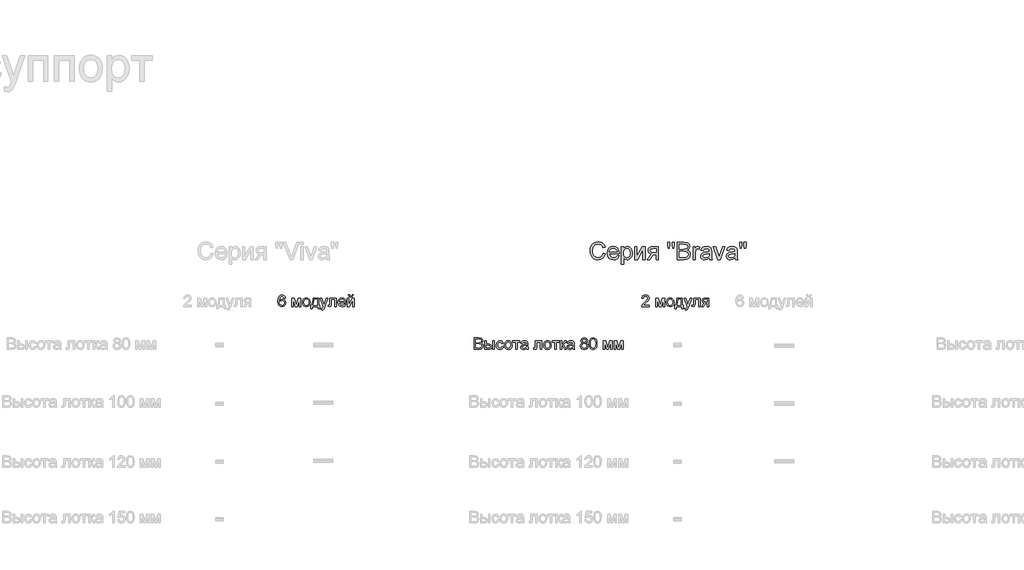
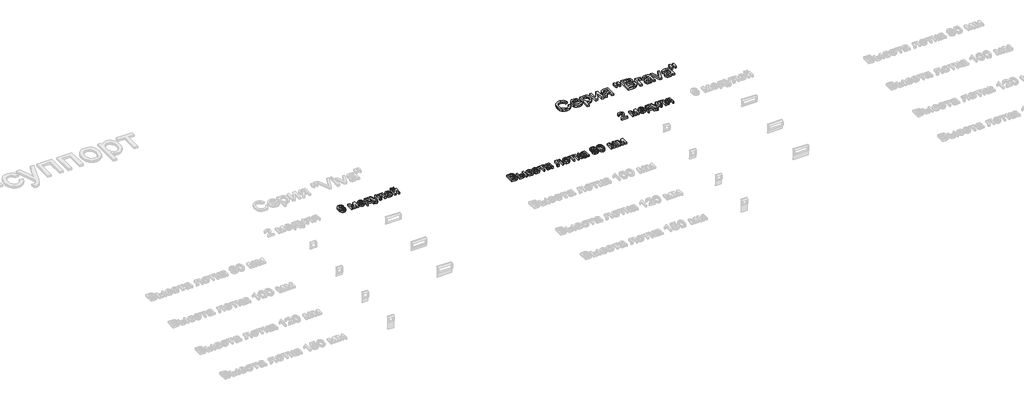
# One storey, part 10 of 28: 4 proxies.
"""IFC4 building model written with IfcOpenShell, lengths in millimetres."""

from ifc_helpers import new_model, si_unit, origin, origin_with_axes, place, context, project, spatial, polyline, outline, extrude, element, save

model = new_model("IFC4")

# Units and contexts
model_context = context("Model", 3, world=origin())
ifc_project = project(units=[si_unit("LENGTHUNIT", "METRE", prefix="MILLI")], contexts=[model_context])

# Site, building, storey
site = spatial("IfcSite", under=ifc_project)
building = spatial("IfcBuilding", under=site)
storey = spatial("IfcBuildingStorey", under=building, Name="Этаж 01", Elevation=0.0)

# Proxies
placement = place(None, origin())
element("IfcBuildingElementProxy", 1, Name="150 мм Arial", ObjectType="150 мм Arial", at=placement, inside=storey, context=model_context, shape_type="SweptSolid", body=[
    extrude(outline(polyline([(7028.9459448, -11135.8364404), (7047.781503, -11140.6924828), (7039.0902908, -11162.6412423), (7025.4510659, -11178.6762988), (7007.5352127, -11188.4849525), (6986.014116, -11191.7545037), (6964.166524, -11189.2804973), (6946.8162894, -11181.858478), (6933.5173553, -11169.7459633), (6923.8236647, -11153.2004706), (6917.9053631, -11133.7487101), (6915.9325959, -11112.9173921), (6918.1628805, -11090.94564), (6924.8537343, -11071.9721261), (6935.6556694, -11056.5992572), (6950.2191978, -11045.4294401), (6967.4912575, -11038.6282217), (6986.4187862, -11036.3611489), (7007.0707617, -11039.2950079), (7024.1450848, -11048.0965846), (7037.1083266, -11062.2232532), (7045.4270582, -11081.1323878), (7026.5915, -11085.6205481), (7020.0615946, -11071.8847541), (7011.1404562, -11062.4623765), (6999.7177203, -11057.0131245), (6985.6830222, -11055.1967071), (6969.5054114, -11057.210861), (6956.2156744, -11063.2533228), (6946.1311092, -11072.689496), (6939.5690141, -11084.8847841), (6934.768154, -11112.8806039), (6936.1890983, -11130.2814223), (6940.4519309, -11145.3277959), (6947.7176003, -11157.4449091), (6958.1470548, -11166.0579463), (6970.6504442, -11171.2036958), (6984.1379178, -11172.9189456), (6999.8602746, -11170.5828949), (7012.9614721, -11163.5747429), (7022.8528993, -11151.9680659), (7028.9459448, -11135.8364404)])), origin_with_axes(), (0.0, 0.0, 1.0), 20.0),
    extrude(outline(polyline([(7148.8018988, -11156.4378322), (7167.269575, -11158.7922769), (7160.6155094, -11172.7074134), (7149.9975153, -11183.1092768), (7135.654716, -11189.593197), (7117.8262348, -11191.7545037), (7095.725724, -11188.0251), (7078.7203788, -11176.8368888), (7067.877057, -11158.9164371), (7064.2626164, -11134.9903119), (7067.9138452, -11110.2594447), (7078.8675316, -11091.7641774), (7095.6429505, -11080.2310769), (7116.7593771, -11076.38671), (7137.2182145, -11080.2218798), (7153.5659707, -11091.7273892), (7164.2851323, -11110.1858683), (7167.8581862, -11134.8799473), (7167.7478216, -11139.9567188), (7083.0981745, -11139.9567188), (7086.3585287, -11154.0557963), (7093.9322993, -11164.4208715), (7104.862993, -11170.794427), (7118.1941168, -11172.9189456), (7136.661793, -11168.9826082), (7148.8018988, -11156.4378322)]), holes=[polyline([(7083.0981745, -11121.1211606), (7149.022628, -11121.1211606), (7146.4750452, -11111.1699527), (7141.4810471, -11104.0514361), (7130.4997696, -11097.4295601), (7116.6858007, -11095.2222682), (7103.9892733, -11096.9835032), (7093.4908409, -11102.2672084), (7086.1929818, -11110.5031666), (7083.0981745, -11121.1211606)])]), origin_with_axes(), (0.0, 0.0, 1.0), 20.0),
    extrude(outline(polyline([(7186.6937443, -11231.7800648), (7186.6937443, -11078.7411548), (7205.5293025, -11078.7411548), (7205.5293025, -11097.208831), (7218.5523251, -11081.5922403), (7236.1370845, -11076.38671), (7248.8749986, -11078.2077259), (7260.012626, -11083.6707735), (7269.0809172, -11092.4447591), (7275.6108226, -11104.1985889), (7280.8715351, -11133.2244783), (7279.3862116, -11149.3331111), (7274.9302409, -11163.7402898), (7267.6461774, -11175.7148487), (7257.6765753, -11184.5256225), (7246.0652998, -11189.9472834), (7233.8562161, -11191.7545037), (7217.4670732, -11186.9168555), (7205.5293025, -11174.6847791), (7205.5293025, -11231.7800648), (7186.6937443, -11231.7800648)]), holes=[polyline([(7205.5293025, -11134.9535237), (7207.566449, -11151.8393072), (7213.6778887, -11163.6483193), (7222.6955961, -11170.601289), (7233.4515459, -11172.9189456), (7244.3822397, -11170.5185155), (7253.6298734, -11163.3172255), (7259.9344511, -11151.0759521), (7262.035977, -11133.5555721), (7259.9850348, -11116.761759), (7253.8322085, -11104.7872001), (7244.8282966, -11097.6135011), (7234.2240981, -11095.2222682), (7223.5785129, -11097.7652525), (7214.2297117, -11105.3942053), (7207.7044048, -11117.8700035), (7205.5293025, -11134.9535237)])]), origin_with_axes(), (0.0, 0.0, 1.0), 20.0),
    extrude(outline(polyline([(7302.061538, -11078.7411548), (7320.8970962, -11078.7411548), (7320.8970962, -11163.1332845), (7367.1766512, -11078.7411548), (7391.5304393, -11078.7411548), (7391.5304393, -11189.4000589), (7372.6948811, -11189.4000589), (7372.6948811, -11105.522964), (7326.7096317, -11189.4000589), (7302.061538, -11189.4000589), (7302.061538, -11078.7411548)])), origin_with_axes(), (0.0, 0.0, 1.0), 20.0),
    extrude(outline(polyline([(7504.5437882, -11078.7411548), (7504.5437882, -11189.4000589), (7485.70823, -11189.4000589), (7485.70823, -11147.0200531), (7475.4443224, -11147.0200531), (7461.4648065, -11149.4112861), (7448.3314193, -11165.4877293), (7433.3218339, -11189.4000589), (7411.5432198, -11189.4000589), (7430.4523544, -11159.1601589), (7438.8032756, -11148.3076401), (7446.4920093, -11143.4883859), (7433.6161395, -11139.5428515), (7424.5662424, -11132.0472559), (7419.2135594, -11122.0776538), (7417.4293317, -11110.7101002), (7419.8665499, -11097.8158362), (7427.1782046, -11087.6071109), (7439.1067783, -11080.9576438), (7455.3947536, -11078.7411548), (7504.5437882, -11078.7411548)]), holes=[polyline([(7485.70823, -11097.5767129), (7460.8761954, -11097.5767129), (7448.0509093, -11098.6665634), (7440.7714443, -11101.9361146), (7436.2648899, -11112.14484), (7437.9249574, -11119.3231374), (7442.9051599, -11124.3033399), (7466.4312135, -11128.1844949), (7485.70823, -11128.1844949), (7485.70823, -11097.5767129)])]), origin_with_axes(), (0.0, 0.0, 1.0), 20.0),
    extrude(outline(polyline([(7591.54788, -11092.8678234), (7586.9493551, -11063.7683576), (7586.9493551, -11038.7155937), (7605.7849133, -11038.7155937), (7605.7849133, -11063.7683576), (7601.6646349, -11092.8678234), (7591.54788, -11092.8678234)])), origin_with_axes(), (0.0, 0.0, 1.0), 20.0),
    extrude(outline(polyline([(7629.1086317, -11092.8678234), (7624.6204714, -11063.7683576), (7624.6204714, -11038.7155937), (7643.4560296, -11038.7155937), (7643.4560296, -11063.7683576), (7639.0414456, -11092.8678234), (7629.1086317, -11092.8678234)])), origin_with_axes(), (0.0, 0.0, 1.0), 20.0),
    extrude(outline(polyline([(7669.354922, -11189.4000589), (7669.354922, -11038.7155937), (7726.8548779, -11038.7155937), (7755.0162446, -11043.1485718), (7764.4800089, -11048.7725678), (7771.6445108, -11056.7785997), (7777.6593814, -11076.0556162), (7772.601004, -11093.6587697), (7757.3155071, -11106.994492), (7767.9886835, -11112.5679042), (7775.8751537, -11121.0475842), (7780.7449916, -11131.8725119), (7782.3682709, -11144.4816673), (7777.9352929, -11164.7335712), (7766.9540153, -11179.1545454), (7750.5648725, -11186.8064909), (7726.4134195, -11189.4000589), (7669.354922, -11189.4000589)]), holes=[polyline([(7688.1904802, -11170.5645008), (7726.8180897, -11170.5645008), (7740.7976055, -11169.8287368), (7752.6250116, -11165.7268526), (7760.4608981, -11157.3575372), (7763.5327128, -11144.6656083), (7759.9274692, -11130.0239049), (7748.2472159, -11121.2867075), (7724.9786797, -11118.7667159), (7688.1904802, -11118.7667159), (7688.1904802, -11170.5645008)]), polyline([(7688.1904802, -11099.9311577), (7722.5874467, -11099.9311577), (7742.6738037, -11098.3124769), (7754.7587272, -11091.3411131), (7758.8238232, -11079.0722486), (7755.0346387, -11066.7849899), (7744.1821198, -11059.5193205), (7719.9754846, -11057.5511519), (7688.1904802, -11057.5511519), (7688.1904802, -11099.9311577)])]), origin_with_axes(), (0.0, 0.0, 1.0), 20.0),
    extrude(outline(polyline([(7805.9127186, -11189.4000589), (7805.9127186, -11078.7411548), (7822.393832, -11078.7411548), (7822.393832, -11095.1119036), (7834.0924795, -11080.0287418), (7845.8647033, -11076.38671), (7864.7738379, -11082.1992455), (7858.4830557, -11099.0850291), (7845.2393039, -11095.2222682), (7834.5891202, -11098.9378763), (7827.8016973, -11109.2385722), (7824.7482768, -11131.2379155), (7824.7482768, -11189.4000589), (7805.9127186, -11189.4000589)])), origin_with_axes(), (0.0, 0.0, 1.0), 20.0),
    extrude(outline(polyline([(7947.1794048, -11175.2733903), (7928.9140637, -11188.0388956), (7908.7357363, -11191.7545037), (7892.9949854, -11189.5196206), (7881.3837099, -11182.8149712), (7874.2238066, -11172.633837), (7871.8371722, -11159.9694993), (7875.4424157, -11145.0702785), (7884.9153771, -11134.2545479), (7898.1039466, -11128.0741303), (7914.401119, -11125.241439), (7947.0690402, -11118.7667159), (7947.1794048, -11114.5728611), (7945.8826207, -11106.1667575), (7941.9922686, -11100.6669217), (7933.2918595, -11096.5834316), (7921.1701477, -11095.2222682), (7902.1138604, -11098.8459058), (7893.0271751, -11111.7033816), (7874.1916169, -11109.3489368), (7882.3402031, -11090.954837), (7898.7477401, -11080.1758946), (7923.5981689, -11076.38671), (7946.4252467, -11079.7344362), (7959.3195106, -11088.1405398), (7965.0952579, -11100.9244391), (7966.0149629, -11117.4055525), (7966.0149629, -11140.8396356), (7966.9714561, -11173.562739), (7970.7238525, -11189.4000589), (7951.8882943, -11189.4000589), (7947.1794048, -11175.2733903)]), holes=[polyline([(7947.1794048, -11137.602274), (7916.792352, -11143.3780213), (7900.5871501, -11146.4314419), (7893.2479043, -11151.3978488), (7890.6727303, -11158.6451241), (7896.2829307, -11168.8354554), (7912.74565, -11172.9189456), (7931.8019374, -11168.4123911), (7944.089196, -11157.50469), (7947.0690402, -11142.936563), (7947.1794048, -11137.602274)])]), origin_with_axes(), (0.0, 0.0, 1.0), 20.0),
    extrude(outline(polyline([(8019.0635466, -11189.4000589), (7980.1416315, -11078.7411548), (8000.0808357, -11078.7411548), (8023.6620716, -11145.0334903), (8030.7621941, -11167.3271392), (8037.7151638, -11146.2842891), (8061.4435525, -11078.7411548), (8081.3827566, -11078.7411548), (8042.9390881, -11189.4000589), (8019.0635466, -11189.4000589)])), origin_with_axes(), (0.0, 0.0, 1.0), 20.0),
    extrude(outline(polyline([(8168.4972131, -11175.2733903), (8150.231872, -11188.0388956), (8130.0535446, -11191.7545037), (8114.3127937, -11189.5196206), (8102.7015182, -11182.8149712), (8095.5416149, -11172.633837), (8093.1549805, -11159.9694993), (8096.760224, -11145.0702785), (8106.2331854, -11134.2545479), (8119.4217549, -11128.0741303), (8135.7189273, -11125.241439), (8168.3868485, -11118.7667159), (8168.4972131, -11114.5728611), (8167.200429, -11106.1667575), (8163.3100769, -11100.6669217), (8154.6096678, -11096.5834316), (8142.487956, -11095.2222682), (8123.4316687, -11098.8459058), (8114.3449834, -11111.7033816), (8095.5094252, -11109.3489368), (8103.6580114, -11090.954837), (8120.0655484, -11080.1758946), (8144.9159772, -11076.38671), (8167.743055, -11079.7344362), (8180.6373189, -11088.1405398), (8186.4130662, -11100.9244391), (8187.3327712, -11117.4055525), (8187.3327712, -11140.8396356), (8188.2892644, -11173.562739), (8192.0416608, -11189.4000589), (8173.2061026, -11189.4000589), (8168.4972131, -11175.2733903)]), holes=[polyline([(8168.4972131, -11137.602274), (8138.1101603, -11143.3780213), (8121.9049584, -11146.4314419), (8114.5657126, -11151.3978488), (8111.9905386, -11158.6451241), (8117.600739, -11168.8354554), (8134.0634583, -11172.9189456), (8153.1197457, -11168.4123911), (8165.4070043, -11157.50469), (8168.3868485, -11142.936563), (8168.4972131, -11137.602274)])]), origin_with_axes(), (0.0, 0.0, 1.0), 20.0),
    extrude(outline(polyline([(8213.1212991, -11092.8678234), (8208.5227742, -11063.7683576), (8208.5227742, -11038.7155937), (8227.3583323, -11038.7155937), (8227.3583323, -11063.7683576), (8223.238054, -11092.8678234), (8213.1212991, -11092.8678234)])), origin_with_axes(), (0.0, 0.0, 1.0), 20.0),
    extrude(outline(polyline([(8250.6820508, -11092.8678234), (8246.1938905, -11063.7683576), (8246.1938905, -11038.7155937), (8265.0294486, -11038.7155937), (8265.0294486, -11063.7683576), (8260.6148647, -11092.8678234), (8250.6820508, -11092.8678234)])), origin_with_axes(), (0.0, 0.0, 1.0), 20.0),
])
element("IfcBuildingElementProxy", 2, Name="100 мм Arial", ObjectType="100 мм Arial", at=placement, inside=storey, context=model_context, shape_type="SweptSolid", body=[
    extrude(outline(polyline([(4281.5720491, -11522.3305611), (4269.0150103, -11523.9001909), (4264.2570698, -11513.4278168), (4251.6755056, -11508.2038924), (4240.3447401, -11511.2450503), (4231.7730896, -11522.6616549), (4228.2046343, -11545.0411429), (4239.2778823, -11535.0224899), (4252.9998808, -11531.7483401), (4264.6004263, -11533.9862889), (4274.3370365, -11540.7001354), (4280.9405183, -11550.9579117), (4283.1416789, -11563.8276501), (4278.9968751, -11581.1548921), (4267.5925332, -11593.4176253), (4251.1359453, -11597.6727937), (4236.8897151, -11594.852365), (4225.5436212, -11586.3910792), (4218.1216019, -11571.4550702), (4215.6475955, -11549.2104722), (4218.3944478, -11524.2006279), (4226.6350044, -11507.1002465), (4237.8860621, -11498.5102019), (4252.4603205, -11495.6468537), (4263.4783863, -11497.4188186), (4272.3014228, -11502.7347135), (4278.4818403, -11511.1776052), (4281.5720491, -11522.3305611)]), holes=[polyline([(4228.2046343, -11563.6314464), (4231.1109021, -11574.5084907), (4238.836424, -11582.4056909), (4250.1549267, -11585.1157549), (4258.4414686, -11583.711672), (4264.9560456, -11579.4994231), (4269.1774915, -11572.8775472), (4270.5846401, -11564.244583), (4269.1958856, -11555.9580411), (4265.029622, -11549.6396678), (4258.4046804, -11545.6389511), (4249.6398919, -11544.3053789), (4234.4463655, -11549.6396678), (4229.7650671, -11555.8047569), (4228.2046343, -11563.6314464)])]), origin_with_axes(), (0.0, 0.0, 1.0), 20.0),
    extrude(outline(polyline([(4336.5090937, -11522.3305611), (4358.1160295, -11522.3305611), (4374.7688212, -11581.387884), (4392.7214625, -11522.3305611), (4413.4209561, -11522.3305611), (4413.4209561, -11596.1031638), (4400.8639174, -11596.1031638), (4400.8639174, -11536.7024843), (4382.8131741, -11596.1031638), (4366.3320607, -11596.1031638), (4349.0661324, -11533.8575302), (4349.0661324, -11596.1031638), (4336.5090937, -11596.1031638), (4336.5090937, -11522.3305611)])), origin_with_axes(), (0.0, 0.0, 1.0), 20.0),
    extrude(outline(polyline([(4429.1172546, -11559.2168624), (4431.83345, -11541.429768), (4439.9820362, -11528.9279115), (4450.0497401, -11522.8026763), (4462.1040068, -11520.7609312), (4475.295642, -11523.2472004), (4485.8323955, -11530.7060078), (4492.73938, -11542.5487424), (4495.0417081, -11558.1867929), (4490.9704807, -11580.5294927), (4479.1124177, -11593.1723706), (4462.1040068, -11597.6727937), (4448.7529561, -11595.1957216), (4438.2284653, -11587.7645053), (4431.3950573, -11575.6734504), (4429.1172546, -11559.2168624)]), holes=[polyline([(4441.6742934, -11559.192337), (4443.1274272, -11570.5568249), (4447.4868289, -11578.6532945), (4454.0473911, -11583.5001398), (4462.1040068, -11585.1157549), (4470.1238343, -11583.4909428), (4476.6721338, -11578.6165063), (4481.0315355, -11570.4127378), (4482.4846694, -11558.7999295), (4481.0223384, -11547.7665353), (4476.6353456, -11539.7804304), (4470.0778491, -11534.9335851), (4462.1040068, -11533.31797), (4454.0473911, -11534.9274537), (4447.4868289, -11539.7559049), (4443.1274272, -11547.8339804), (4441.6742934, -11559.192337)])]), origin_with_axes(), (0.0, 0.0, 1.0), 20.0),
    extrude(outline(polyline([(4520.1557857, -11522.3305611), (4567.244681, -11522.3305611), (4567.244681, -11583.5461251), (4576.6624601, -11583.5461251), (4576.6624601, -11616.5083518), (4564.1054214, -11616.5083518), (4564.1054214, -11596.1031638), (4512.3076364, -11596.1031638), (4512.3076364, -11616.5083518), (4499.7505977, -11616.5083518), (4499.7505977, -11583.5461251), (4507.5987469, -11583.5461251), (4517.2985688, -11559.5970072), (4520.1557857, -11522.3305611)]), holes=[polyline([(4531.1431946, -11534.8875998), (4528.2001386, -11563.4965563), (4521.7254155, -11583.5461251), (4554.6876423, -11583.5461251), (4554.6876423, -11534.8875998), (4531.1431946, -11534.8875998)])]), origin_with_axes(), (0.0, 0.0, 1.0), 20.0),
    extrude(outline(polyline([(4590.7891287, -11624.3565011), (4589.2194989, -11612.2654462), (4595.5961201, -11613.3690921), (4601.5558085, -11611.9834033), (4605.2101029, -11608.1206423), (4608.6436682, -11598.8745415), (4609.6246869, -11595.8333837), (4582.9409795, -11522.3305611), (4596.1847313, -11522.3305611), (4610.3359254, -11563.2880899), (4615.2655441, -11579.6711014), (4620.1951629, -11565.2010762), (4634.7387644, -11522.3305611), (4647.8844144, -11522.3305611), (4622.2062511, -11597.8689974), (4615.5353243, -11614.2520089), (4608.2512608, -11623.1057023), (4598.4655997, -11625.9261309), (4590.7891287, -11624.3565011)])), origin_with_axes(), (0.0, 0.0, 1.0), 20.0),
    extrude(outline(polyline([(4664.5617315, -11522.3305611), (4721.068406, -11522.3305611), (4721.068406, -11596.0295874), (4708.5113672, -11596.0295874), (4708.5113672, -11534.8875998), (4677.1187703, -11534.8875998), (4677.1187703, -11570.081644), (4676.2726417, -11586.3175028), (4671.6250658, -11593.1723706), (4660.6376569, -11596.1031638), (4650.4350629, -11595.4655017), (4650.4350629, -11583.5461251), (4656.0513947, -11583.5461251), (4661.7290401, -11582.7735729), (4663.9976458, -11580.3210262), (4664.5617315, -11569.3704055), (4664.5617315, -11522.3305611)])), origin_with_axes(), (0.0, 0.0, 1.0), 20.0),
    extrude(outline(polyline([(4791.5545962, -11574.128346), (4803.8663803, -11575.6979758), (4799.4303366, -11584.9747335), (4792.3516739, -11591.9093091), (4782.7898077, -11596.2319225), (4770.9041536, -11597.6727937), (4756.1704797, -11595.1865245), (4744.8335829, -11587.7277171), (4737.6047016, -11575.7807493), (4735.1950746, -11559.8299991), (4737.6292271, -11543.3427544), (4744.9316847, -11531.0125762), (4756.1152974, -11523.3238425), (4770.1929151, -11520.7609312), (4783.83214, -11523.3177111), (4794.7306441, -11530.9880507), (4801.8767519, -11543.2937034), (4804.2587878, -11559.7564227), (4804.1852114, -11563.1409371), (4747.7521133, -11563.1409371), (4749.9256828, -11572.540322), (4754.9748632, -11579.4503722), (4762.2619924, -11583.6994092), (4771.1494082, -11585.1157549), (4783.4611923, -11582.49153), (4791.5545962, -11574.128346)]), holes=[polyline([(4747.7521133, -11550.5838983), (4791.701749, -11550.5838983), (4786.6740284, -11539.2040819), (4779.3531767, -11534.789498), (4770.1438641, -11533.31797), (4754.6805576, -11538.0145968), (4749.8153182, -11543.5052356), (4747.7521133, -11550.5838983)])]), origin_with_axes(), (0.0, 0.0, 1.0), 20.0),
    extrude(outline(polyline([(4816.8158266, -11522.3305611), (4829.3728653, -11522.3305611), (4829.3728653, -11578.5919809), (4860.225902, -11522.3305611), (4876.4617607, -11522.3305611), (4876.4617607, -11596.1031638), (4863.904722, -11596.1031638), (4863.904722, -11540.1851006), (4833.247889, -11596.1031638), (4816.8158266, -11596.1031638), (4816.8158266, -11522.3305611)])), origin_with_axes(), (0.0, 0.0, 1.0), 20.0),
    extrude(outline(polyline([(4857.6262026, -11495.6468537), (4867.0439816, -11495.6468537), (4860.9494033, -11509.6141068), (4847.4236086, -11514.4824118), (4832.7819052, -11509.650895), (4826.2336056, -11495.6468537), (4835.6513847, -11495.6468537), (4839.1830519, -11502.7224507), (4846.2954371, -11505.0646328), (4854.0945354, -11502.7960271), (4857.6262026, -11495.6468537)])), origin_with_axes(), (0.0, 0.0, 1.0), 20.0),
])
element("IfcBuildingElementProxy", 3, Name="100 мм Arial", ObjectType="100 мм Arial", at=placement, inside=storey, context=model_context, shape_type="SweptSolid", body=[
    extrude(outline(polyline([(5915.5247749, -11966.5703412), (5915.5247749, -11866.114031), (5953.8580788, -11866.114031), (5972.6323233, -11869.0693497), (5983.7178341, -11878.156035), (5987.7277478, -11891.0073794), (5984.3554962, -11902.742815), (5974.165165, -11911.6332966), (5986.5382627, -11921.0020247), (5990.8670075, -11936.6247468), (5987.9116888, -11950.126016), (5980.5908371, -11959.7399988), (5969.6647419, -11964.8412958), (5953.5637732, -11966.5703412), (5915.5247749, -11966.5703412)]), holes=[polyline([(5928.0818137, -11906.924407), (5951.0131247, -11906.924407), (5964.4040294, -11905.8452865), (5972.460645, -11901.1977106), (5975.1707091, -11893.0184676), (5972.644586, -11884.8269619), (5965.4095735, -11879.9831823), (5949.2718166, -11878.6710698), (5928.0818137, -11878.6710698), (5928.0818137, -11906.924407)]), polyline([(5928.0818137, -11954.0133024), (5953.8335534, -11954.0133024), (5963.1532306, -11953.5227931), (5971.038168, -11950.7882036), (5976.2620923, -11945.20866), (5978.3099688, -11936.7473741), (5975.9064731, -11926.9862385), (5968.1196375, -11921.1614402), (5952.60728, -11919.4814458), (5928.0818137, -11919.4814458), (5928.0818137, -11954.0133024)])]), origin_with_axes(), (0.0, 0.0, 1.0), 20.0),
    extrude(outline(polyline([(6075.6270192, -11892.7977384), (6088.184058, -11892.7977384), (6088.184058, -11966.5703412), (6075.6270192, -11966.5703412), (6075.6270192, -11892.7977384)])), origin_with_axes(), (0.0, 0.0, 1.0), 20.0),
    extrude(outline(polyline([(6006.563306, -11892.7977384), (6019.1203448, -11892.7977384), (6019.1203448, -11919.4814458), (6034.644965, -11919.4814458), (6048.0634607, -11921.0541413), (6058.0054717, -11925.7722279), (6064.158298, -11933.2555608), (6066.2092401, -11943.1239954), (6064.4893918, -11952.1095131), (6059.3298468, -11959.6909479), (6050.39338, -11964.8504929), (6037.3427663, -11966.5703412), (6006.563306, -11966.5703412), (6006.563306, -11892.7977384)]), holes=[polyline([(6019.1203448, -11954.0133024), (6032.0207401, -11954.0133024), (6048.6735317, -11951.3768148), (6053.6522014, -11943.1485208), (6049.9611187, -11935.4229989), (6033.6639463, -11932.0384846), (6019.1203448, -11932.0384846), (6019.1203448, -11954.0133024)])]), origin_with_axes(), (0.0, 0.0, 1.0), 20.0),
    extrude(outline(polyline([(6154.1085115, -11939.8866338), (6166.6655503, -11941.4562636), (6163.16454, -11952.6245479), (6156.5855836, -11961.064374), (6147.5479493, -11966.3710718), (6136.670905, -11968.139971), (6123.3137229, -11965.672096), (6112.8689399, -11958.2684708), (6106.1275023, -11946.254058), (6103.8803565, -11929.9538199), (6107.7185919, -11909.0949108), (6119.4172394, -11895.6917434), (6136.4992267, -11891.2281086), (6147.1095566, -11892.7609502), (6155.5923022, -11897.3594752), (6161.6776836, -11904.7784287), (6165.0959205, -11914.7725563), (6152.5388817, -11916.3421861), (6146.7140834, -11906.9366698), (6136.5973286, -11903.7851473), (6128.4824649, -11905.3363831), (6122.0414643, -11909.9900903), (6117.8384125, -11917.9976551), (6116.4373952, -11929.6104634), (6117.8077557, -11941.3796216), (6121.918837, -11949.4147775), (6128.2433416, -11954.0408936), (6136.253972, -11955.5829323), (6148.0875095, -11951.732434), (6154.1085115, -11939.8866338)])), origin_with_axes(), (0.0, 0.0, 1.0), 20.0),
    extrude(outline(polyline([(6174.5136995, -11929.6840398), (6177.2298949, -11911.8969453), (6185.3784811, -11899.3950889), (6195.4461851, -11893.2698536), (6207.5004518, -11891.2281086), (6220.692087, -11893.7143777), (6231.2288405, -11901.1731852), (6238.1358249, -11913.0159197), (6240.4381531, -11928.6539702), (6236.3669257, -11950.9966701), (6224.5088627, -11963.639548), (6207.5004518, -11968.139971), (6194.149401, -11965.6628989), (6183.6249103, -11958.2316826), (6176.7915022, -11946.1406277), (6174.5136995, -11929.6840398)]), holes=[polyline([(6187.0707383, -11929.6595143), (6188.5238722, -11941.0240023), (6192.8832738, -11949.1204719), (6199.4438361, -11953.9673172), (6207.5004518, -11955.5829323), (6215.5202793, -11953.9581201), (6222.0685788, -11949.0836837), (6226.4279804, -11940.8799152), (6227.8811143, -11929.2671069), (6226.4187834, -11918.2337127), (6222.0317906, -11910.2476077), (6215.474294, -11905.4007624), (6207.5004518, -11903.7851473), (6199.4438361, -11905.3946311), (6192.8832738, -11910.2230823), (6188.5238722, -11918.3011577), (6187.0707383, -11929.6595143)])]), origin_with_axes(), (0.0, 0.0, 1.0), 20.0),
    extrude(outline(polyline([(6248.2863023, -11892.7977384), (6307.9322364, -11892.7977384), (6307.9322364, -11905.3547772), (6284.3877888, -11905.3547772), (6284.3877888, -11966.5703412), (6271.83075, -11966.5703412), (6271.83075, -11905.3547772), (6248.2863023, -11905.3547772), (6248.2863023, -11892.7977384)])), origin_with_axes(), (0.0, 0.0, 1.0), 20.0),
    extrude(outline(polyline([(6366.0085408, -11957.1525621), (6353.8316467, -11965.6628989), (6340.3794284, -11968.139971), (6329.8855945, -11966.6500489), (6322.1447442, -11962.1802827), (6317.3714753, -11955.3928599), (6315.7803857, -11946.9499681), (6318.1838814, -11937.0171542), (6324.499189, -11929.8066671), (6333.2915686, -11925.6863888), (6344.1563502, -11923.7979279), (6365.9349644, -11919.4814458), (6366.0085408, -11916.6855426), (6362.55045, -11907.4149164), (6348.669036, -11903.7851473), (6335.9648445, -11906.2009058), (6329.9070543, -11914.7725563), (6317.3500155, -11913.2029264), (6322.7824063, -11900.9401932), (6333.7207643, -11893.7542316), (6350.2877168, -11891.2281086), (6365.5057687, -11893.459926), (6374.1019446, -11899.0639951), (6377.9524429, -11907.5865946), (6378.5655795, -11918.5740035), (6378.5655795, -11934.1967256), (6379.2032416, -11956.0121279), (6381.7048392, -11966.5703412), (6369.1478004, -11966.5703412), (6366.0085408, -11957.1525621)]), holes=[polyline([(6366.0085408, -11932.0384846), (6345.7505056, -11935.8889828), (6334.9470376, -11937.9245965), (6330.0542071, -11941.2355344), (6328.3374244, -11946.0670513), (6332.0775581, -11952.8606055), (6343.0527043, -11955.5829323), (6355.7568958, -11952.5785626), (6363.9484016, -11945.3067619), (6365.9349644, -11935.5946772), (6366.0085408, -11932.0384846)])]), origin_with_axes(), (0.0, 0.0, 1.0), 20.0),
    extrude(outline(polyline([(6441.3507734, -11892.7977384), (6497.8574478, -11892.7977384), (6497.8574478, -11966.4967648), (6485.3004091, -11966.4967648), (6485.3004091, -11905.3547772), (6453.9078121, -11905.3547772), (6453.9078121, -11940.5488214), (6453.0616835, -11956.7846801), (6448.4141077, -11963.639548), (6437.4266987, -11966.5703412), (6427.2241047, -11965.9326791), (6427.2241047, -11954.0133024), (6432.8404365, -11954.0133024), (6438.518082, -11953.2407502), (6440.7866876, -11950.7882036), (6441.3507734, -11939.8375829), (6441.3507734, -11892.7977384)])), origin_with_axes(), (0.0, 0.0, 1.0), 20.0),
    extrude(outline(polyline([(6513.5537463, -11929.6840398), (6516.2699417, -11911.8969453), (6524.4185279, -11899.3950889), (6534.4862318, -11893.2698536), (6546.5404985, -11891.2281086), (6559.7321337, -11893.7143777), (6570.2688872, -11901.1731852), (6577.1758717, -11913.0159197), (6579.4781998, -11928.6539702), (6575.4069724, -11950.9966701), (6563.5489094, -11963.639548), (6546.5404985, -11968.139971), (6533.1894478, -11965.6628989), (6522.664957, -11958.2316826), (6515.831549, -11946.1406277), (6513.5537463, -11929.6840398)]), holes=[polyline([(6526.1107851, -11929.6595143), (6527.5639189, -11941.0240023), (6531.9233206, -11949.1204719), (6538.4838828, -11953.9673172), (6546.5404985, -11955.5829323), (6554.560326, -11953.9581201), (6561.1086255, -11949.0836837), (6565.4680272, -11940.8799152), (6566.9211611, -11929.2671069), (6565.4588301, -11918.2337127), (6561.0718373, -11910.2476077), (6554.5143408, -11905.4007624), (6546.5404985, -11903.7851473), (6538.4838828, -11905.3946311), (6531.9233206, -11910.2230823), (6527.5639189, -11918.3011577), (6526.1107851, -11929.6595143)])]), origin_with_axes(), (0.0, 0.0, 1.0), 20.0),
    extrude(outline(polyline([(6587.326349, -11892.7977384), (6646.9722832, -11892.7977384), (6646.9722832, -11905.3547772), (6623.4278355, -11905.3547772), (6623.4278355, -11966.5703412), (6610.8707967, -11966.5703412), (6610.8707967, -11905.3547772), (6587.326349, -11905.3547772), (6587.326349, -11892.7977384)])), origin_with_axes(), (0.0, 0.0, 1.0), 20.0),
    extrude(outline(polyline([(6657.9596921, -11892.7977384), (6670.5167309, -11892.7977384), (6670.5167309, -11924.1903353), (6678.9289658, -11921.9339924), (6685.8206219, -11908.7883425), (6691.5473183, -11897.4453143), (6696.5995644, -11893.7542316), (6705.7843515, -11892.7977384), (6708.1878472, -11892.7977384), (6708.1878472, -11905.4283536), (6704.8033328, -11905.3547772), (6698.6719663, -11906.6791524), (6694.3554842, -11914.9442345), (6689.2909754, -11923.883767), (6682.1908529, -11928.2615628), (6690.1125785, -11933.1482619), (6697.8871513, -11943.4428264), (6711.3271069, -11966.5703412), (6697.0532855, -11966.5703412), (6683.8831101, -11943.9333357), (6677.2612341, -11934.3561411), (6670.5167309, -11932.0384846), (6670.5167309, -11966.5703412), (6657.9596921, -11966.5703412), (6657.9596921, -11892.7977384)])), origin_with_axes(), (0.0, 0.0, 1.0), 20.0),
    extrude(outline(polyline([(6766.2641515, -11957.1525621), (6754.0872575, -11965.6628989), (6740.6350392, -11968.139971), (6730.1412053, -11966.6500489), (6722.4003549, -11962.1802827), (6717.6270861, -11955.3928599), (6716.0359964, -11946.9499681), (6718.4394921, -11937.0171542), (6724.7547997, -11929.8066671), (6733.5471794, -11925.6863888), (6744.411961, -11923.7979279), (6766.1905751, -11919.4814458), (6766.2641515, -11916.6855426), (6762.8060607, -11907.4149164), (6748.9246468, -11903.7851473), (6736.2204552, -11906.2009058), (6730.162665, -11914.7725563), (6717.6056263, -11913.2029264), (6723.0380171, -11900.9401932), (6733.9763751, -11893.7542316), (6750.5433276, -11891.2281086), (6765.7613794, -11893.459926), (6774.3575554, -11899.0639951), (6778.2080536, -11907.5865946), (6778.8211903, -11918.5740035), (6778.8211903, -11934.1967256), (6779.4588524, -11956.0121279), (6781.96045, -11966.5703412), (6769.4034112, -11966.5703412), (6766.2641515, -11957.1525621)]), holes=[polyline([(6766.2641515, -11932.0384846), (6746.0061163, -11935.8889828), (6735.2026484, -11937.9245965), (6730.3098178, -11941.2355344), (6728.5930352, -11946.0670513), (6732.3331688, -11952.8606055), (6743.308315, -11955.5829323), (6756.0125066, -11952.5785626), (6764.2040123, -11945.3067619), (6766.1905751, -11935.5946772), (6766.2641515, -11932.0384846)])]), origin_with_axes(), (0.0, 0.0, 1.0), 20.0),
    extrude(outline(polyline([(6850.4846029, -11911.2408891), (6839.0434729, -11903.4417908), (6835.3278647, -11891.301685), (6837.3512157, -11881.4853671), (6843.4212686, -11873.3735691), (6852.8574418, -11867.9289155), (6864.9791535, -11866.114031), (6877.1744417, -11867.9718351), (6886.7332422, -11873.5452473), (6892.9136597, -11881.785804), (6894.9737989, -11891.6450415), (6891.3072417, -11903.478579), (6880.1849427, -11911.2408891), (6893.5390591, -11921.0878638), (6898.1130586, -11937.3359853), (6895.8444529, -11949.3412011), (6889.038636, -11959.2617522), (6878.5294737, -11965.9204163), (6865.1508318, -11968.139971), (6851.7721899, -11965.9112193), (6841.2630276, -11959.224964), (6834.4572107, -11949.2093767), (6832.188605, -11936.9926288), (6836.9465455, -11920.3643626), (6850.4846029, -11911.2408891)]), holes=[polyline([(6847.8849035, -11891.669567), (6852.3362756, -11901.5288044), (6865.2979846, -11905.3547772), (6878.0021762, -11901.5533299), (6882.4167601, -11892.2336527), (6877.8550234, -11882.5828817), (6865.1508318, -11878.6710698), (6852.409852, -11882.4970426), (6847.8849035, -11891.669567)]), polyline([(6844.7456438, -11936.5511704), (6846.8425712, -11946.0057377), (6854.2615248, -11953.0813347), (6865.2489337, -11955.5829323), (6873.7960587, -11954.2677541), (6880.2094681, -11950.3222197), (6885.5560198, -11936.9435778), (6880.0377899, -11923.3074186), (6873.4772276, -11919.2607166), (6864.8320007, -11917.911816), (6856.4044374, -11919.2423225), (6850.0554073, -11923.2338422), (6844.7456438, -11936.5511704)])]), origin_with_axes(), (0.0, 0.0, 1.0), 20.0),
    extrude(outline(polyline([(6909.1004675, -11917.1515265), (6912.7915502, -11888.2482644), (6923.7544336, -11871.58321), (6942.0626943, -11866.114031), (6956.7289231, -11869.3513926), (6966.8579407, -11878.6833325), (6972.7440527, -11893.5457651), (6975.024921, -11917.1515265), (6971.3706265, -11945.9321613), (6960.4445313, -11962.6340038), (6952.2131716, -11966.7634792), (6942.0626943, -11968.139971), (6929.0151462, -11965.7487381), (6919.1068578, -11958.5750392), (6911.6020651, -11941.5850223), (6909.1004675, -11917.1515265)]), holes=[polyline([(6921.6575063, -11917.127001), (6923.1290342, -11936.8791985), (6927.5436182, -11948.3111315), (6934.1164432, -11953.7649821), (6942.0626943, -11955.5829323), (6950.0089454, -11953.7588507), (6956.5817703, -11948.286606), (6960.9963543, -11936.8485417), (6962.4678823, -11917.127001), (6961.0454052, -11897.8193277), (6956.7779741, -11886.2984898), (6950.2174118, -11880.5779248), (6941.9155415, -11878.6710698), (6934.0551295, -11880.3510642), (6927.7398219, -11885.3910476), (6923.1780852, -11897.6292553), (6921.6575063, -11917.127001)])]), origin_with_axes(), (0.0, 0.0, 1.0), 20.0),
    extrude(outline(polyline([(7028.3923358, -11892.7977384), (7049.9992717, -11892.7977384), (7066.6520633, -11951.8550614), (7084.6047047, -11892.7977384), (7105.3041983, -11892.7977384), (7105.3041983, -11966.5703412), (7092.7471595, -11966.5703412), (7092.7471595, -11907.1696617), (7074.6964163, -11966.5703412), (7058.2153029, -11966.5703412), (7040.9493746, -11904.3247076), (7040.9493746, -11966.5703412), (7028.3923358, -11966.5703412), (7028.3923358, -11892.7977384)])), origin_with_axes(), (0.0, 0.0, 1.0), 20.0),
    extrude(outline(polyline([(7124.1397564, -11892.7977384), (7145.7466923, -11892.7977384), (7162.3994839, -11951.8550614), (7180.3521253, -11892.7977384), (7201.0516189, -11892.7977384), (7201.0516189, -11966.5703412), (7188.4945801, -11966.5703412), (7188.4945801, -11907.1696617), (7170.4438369, -11966.5703412), (7153.9627235, -11966.5703412), (7136.6967952, -11904.3247076), (7136.6967952, -11966.5703412), (7124.1397564, -11966.5703412), (7124.1397564, -11892.7977384)])), origin_with_axes(), (0.0, 0.0, 1.0), 20.0),
])
element("IfcBuildingElementProxy", 4, Name="100 мм Arial", ObjectType="100 мм Arial", at=placement, inside=storey, context=model_context, shape_type="SweptSolid", body=[
    extrude(outline(polyline([(7427.6955086, -11583.5461251), (7427.6955086, -11596.1031638), (7361.771055, -11596.1031638), (7363.1199557, -11587.4456742), (7370.7473757, -11574.1160833), (7386.4681996, -11559.560219), (7408.1487119, -11538.6399962), (7413.5688399, -11524.4152257), (7408.4552802, -11512.9005193), (7395.1011638, -11508.2038924), (7381.1829616, -11512.7901547), (7375.8977236, -11525.4698208), (7363.3406849, -11523.9001909), (7366.3849084, -11511.7539537), (7372.9669304, -11502.8818663), (7382.7433944, -11497.4556068), (7395.3709439, -11495.6468537), (7408.0904639, -11497.6579419), (7417.8485338, -11503.6912066), (7424.0565425, -11512.7043155), (7426.1258787, -11523.6549362), (7423.8940613, -11535.5620502), (7416.4751077, -11547.8738343), (7398.4856781, -11565.0784489), (7384.0401785, -11577.1572411), (7378.3747957, -11583.5461251), (7427.6955086, -11583.5461251)])), origin_with_axes(), (0.0, 0.0, 1.0), 20.0),
    extrude(outline(polyline([(7482.6325532, -11522.3305611), (7504.239489, -11522.3305611), (7520.8922807, -11581.387884), (7538.844922, -11522.3305611), (7559.5444156, -11522.3305611), (7559.5444156, -11596.1031638), (7546.9873769, -11596.1031638), (7546.9873769, -11536.7024843), (7528.9366336, -11596.1031638), (7512.4555202, -11596.1031638), (7495.1895919, -11533.8575302), (7495.1895919, -11596.1031638), (7482.6325532, -11596.1031638), (7482.6325532, -11522.3305611)])), origin_with_axes(), (0.0, 0.0, 1.0), 20.0),
    extrude(outline(polyline([(7575.2407141, -11559.2168624), (7577.9569095, -11541.429768), (7586.1054957, -11528.9279115), (7596.1731996, -11522.8026763), (7608.2274663, -11520.7609312), (7621.4191015, -11523.2472004), (7631.955855, -11530.7060078), (7638.8628395, -11542.5487424), (7641.1651676, -11558.1867929), (7637.0939402, -11580.5294927), (7625.2358772, -11593.1723706), (7608.2274663, -11597.6727937), (7594.8764156, -11595.1957216), (7584.3519248, -11587.7645053), (7577.5185168, -11575.6734504), (7575.2407141, -11559.2168624)]), holes=[polyline([(7587.7977529, -11559.192337), (7589.2508867, -11570.5568249), (7593.6102884, -11578.6532945), (7600.1708506, -11583.5001398), (7608.2274663, -11585.1157549), (7616.2472938, -11583.4909428), (7622.7955933, -11578.6165063), (7627.154995, -11570.4127378), (7628.6081289, -11558.7999295), (7627.1457979, -11547.7665353), (7622.7588051, -11539.7804304), (7616.2013086, -11534.9335851), (7608.2274663, -11533.31797), (7600.1708506, -11534.9274537), (7593.6102884, -11539.7559049), (7589.2508867, -11547.8339804), (7587.7977529, -11559.192337)])]), origin_with_axes(), (0.0, 0.0, 1.0), 20.0),
    extrude(outline(polyline([(7666.2792452, -11522.3305611), (7713.3681405, -11522.3305611), (7713.3681405, -11583.5461251), (7722.7859196, -11583.5461251), (7722.7859196, -11616.5083518), (7710.2288808, -11616.5083518), (7710.2288808, -11596.1031638), (7658.4310959, -11596.1031638), (7658.4310959, -11616.5083518), (7645.8740572, -11616.5083518), (7645.8740572, -11583.5461251), (7653.7222064, -11583.5461251), (7663.4220283, -11559.5970072), (7666.2792452, -11522.3305611)]), holes=[polyline([(7677.2666541, -11534.8875998), (7674.3235981, -11563.4965563), (7667.848875, -11583.5461251), (7700.8111018, -11583.5461251), (7700.8111018, -11534.8875998), (7677.2666541, -11534.8875998)])]), origin_with_axes(), (0.0, 0.0, 1.0), 20.0),
    extrude(outline(polyline([(7736.9125882, -11624.3565011), (7735.3429584, -11612.2654462), (7741.7195796, -11613.3690921), (7747.679268, -11611.9834033), (7751.3335624, -11608.1206423), (7754.7671277, -11598.8745415), (7755.7481464, -11595.8333837), (7729.064439, -11522.3305611), (7742.3081908, -11522.3305611), (7756.4593849, -11563.2880899), (7761.3890036, -11579.6711014), (7766.3186224, -11565.2010762), (7780.8622239, -11522.3305611), (7794.0078739, -11522.3305611), (7768.3297106, -11597.8689974), (7761.6587838, -11614.2520089), (7754.3747203, -11623.1057023), (7744.5890592, -11625.9261309), (7736.9125882, -11624.3565011)])), origin_with_axes(), (0.0, 0.0, 1.0), 20.0),
    extrude(outline(polyline([(7810.685191, -11522.3305611), (7867.1918655, -11522.3305611), (7867.1918655, -11596.0295874), (7854.6348267, -11596.0295874), (7854.6348267, -11534.8875998), (7823.2422298, -11534.8875998), (7823.2422298, -11570.081644), (7822.3961012, -11586.3175028), (7817.7485253, -11593.1723706), (7806.7611164, -11596.1031638), (7796.5585224, -11595.4655017), (7796.5585224, -11583.5461251), (7802.1748542, -11583.5461251), (7807.8524996, -11582.7735729), (7810.1211053, -11580.3210262), (7810.685191, -11569.3704055), (7810.685191, -11522.3305611)])), origin_with_axes(), (0.0, 0.0, 1.0), 20.0),
    extrude(outline(polyline([(7942.5340981, -11522.3305611), (7942.5340981, -11596.1031638), (7929.9770593, -11596.1031638), (7929.9770593, -11567.8498266), (7923.1344542, -11567.8498266), (7913.814777, -11569.4439819), (7905.0591855, -11580.1616107), (7895.0527952, -11596.1031638), (7880.5337191, -11596.1031638), (7893.1398088, -11575.9432305), (7903.8329122, -11565.4953818), (7895.248999, -11562.8650256), (7889.2157342, -11557.8679618), (7884.4577938, -11543.6431913), (7886.0826059, -11535.0470154), (7890.9570423, -11528.2411985), (7898.9094248, -11523.8082204), (7909.768075, -11522.3305611), (7942.5340981, -11522.3305611)]), holes=[polyline([(7929.9770593, -11534.8875998), (7913.4223695, -11534.8875998), (7900.0192022, -11537.7938676), (7897.0148325, -11544.5996845), (7901.4416792, -11552.7053511), (7917.1257149, -11555.2927878), (7929.9770593, -11555.2927878), (7929.9770593, -11534.8875998)])]), origin_with_axes(), (0.0, 0.0, 1.0), 20.0),
])

save(model, "model.ifc")
